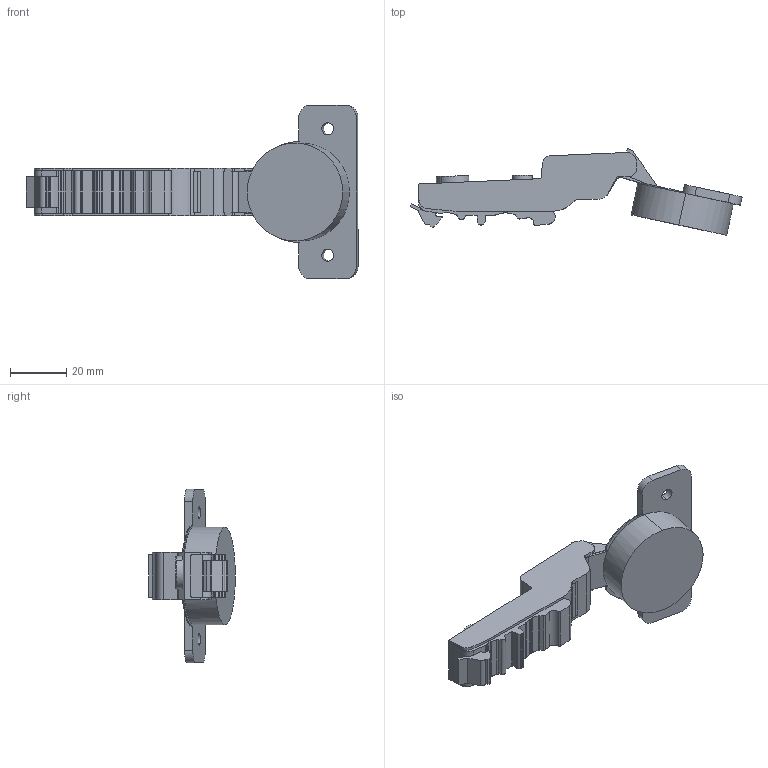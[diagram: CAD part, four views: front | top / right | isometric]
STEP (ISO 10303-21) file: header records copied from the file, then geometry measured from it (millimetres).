
FILE_DESCRIPTION (( 'STEP AP214' ), '1' );
FILE_NAME ('C82B675FA-Open.STEP', '2025-07-21T05:54:22', ( '微软用户' ), ( '微软中国' ), 'SwSTEP 2.0', 'SolidWorks 2021', '' );
FILE_SCHEMA (( 'AUTOMOTIVE_DESIGN' ));
Length unit declared in the file: millimetre
Products named in the file (1): C82B675FA-Open
Bounding box: 118.27 x 30.83 x 61.96 mm (x, y, z)
Volume: 34172.7 mm3; surface area: 11292.9 mm2
Topology: 1 solids, 1 shells, 162 faces, 472 edges, 314 vertices
Faces by surface type: cylinder 81, plane 81
Entity records: 5453 total; most frequent: CARTESIAN_POINT 976, DIRECTION 958, ORIENTED_EDGE 944, EDGE_CURVE 472, AXIS2_PLACEMENT_3D 332, VERTEX_POINT 314, LINE 294, VECTOR 294
